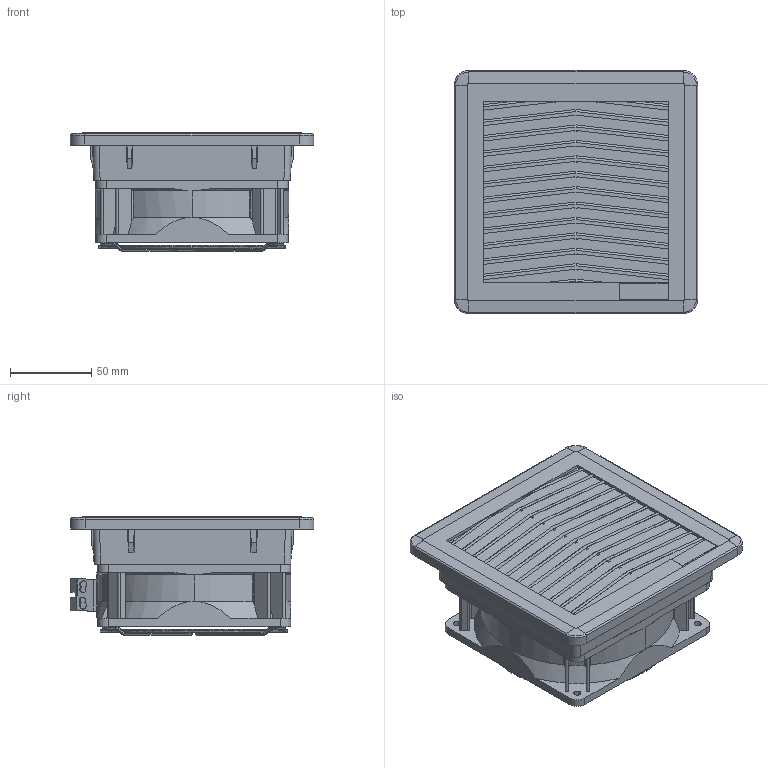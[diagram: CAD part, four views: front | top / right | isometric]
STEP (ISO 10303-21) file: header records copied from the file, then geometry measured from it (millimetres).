
FILE_DESCRIPTION (( 'STEP AP214' ), '1' );
FILE_NAME ('FF12DxxyN(3).STEP', '2023-09-14T13:00:15', ( '' ), ( '' ), 'SwSTEP 2.0', 'SolidWorks 2022', '' );
FILE_SCHEMA (( 'AUTOMOTIVE_DESIGN' ));
Length unit declared in the file: millimetre
Products named in the file (9): DT-01852DSI_Assieme type 3R (125) semplificato; DT-03892DSI_Semplificata; DT-04082DSI_mostrina semplificata; FF12DxxyN(3); DT-01853DSI; DT-00200DSI_Coperchio semplificato; LK_980-01-2_Semplificata; DT-00350DSI_Base 125 semplificata; DT-02371DSI_Semplificato
Assembly tree (8 placements, depth 3):
  FF12DxxyN(3)
    DT-01852DSI_Assieme type 3R (125) semplificato
      DT-00350DSI_Base 125 semplificata
      DT-00200DSI_Coperchio semplificato
      DT-04082DSI_mostrina semplificata
    DT-01853DSI
    DT-02371DSI_Semplificato
    DT-03892DSI_Semplificata
    LK_980-01-2_Semplificata
Bounding box: 150 x 150.26 x 72.9 mm (x, y, z)
Volume: 601127 mm3; surface area: 182298.1 mm2
Topology: 6 solids, 9 shells, 536 faces, 1558 edges, 1032 vertices
Faces by surface type: plane 304, bspline 108, cylinder 94, cone 25, torus 5
Entity records: 33934 total; most frequent: CARTESIAN_POINT 18212, ORIENTED_EDGE 3112, DIRECTION 2160, EDGE_CURVE 1556, VERTEX_POINT 1032, VECTOR 946, LINE 946, EDGE_LOOP 608
